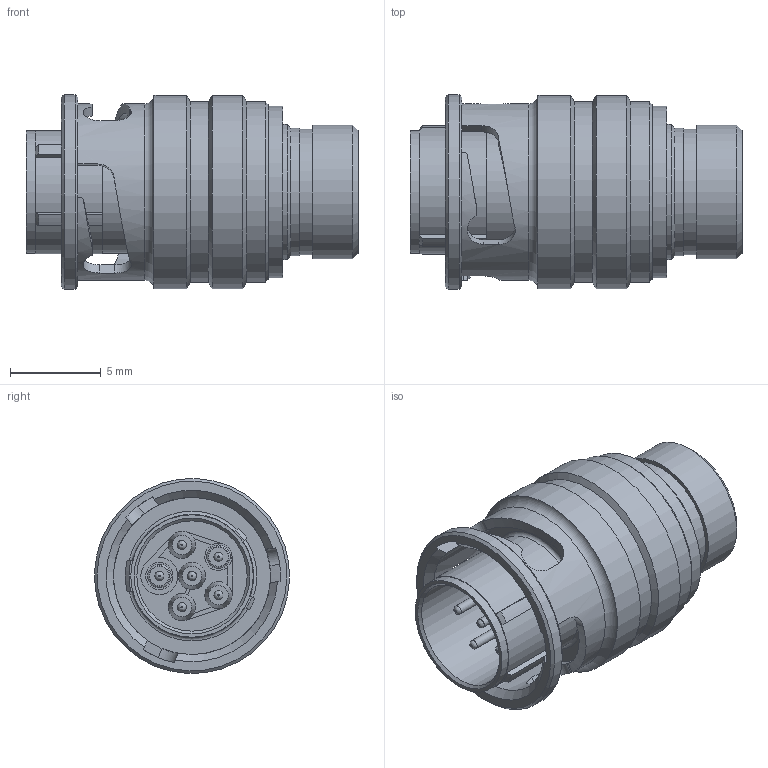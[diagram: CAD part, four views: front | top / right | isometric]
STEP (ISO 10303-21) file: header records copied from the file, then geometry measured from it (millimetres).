
FILE_DESCRIPTION(/* description */ ('STEP AP203'),/* implementation_level */ '2;1');
FILE_NAME(/* name */ 'ASX602-06PN-HE.step',/* time_stamp */ '',/* author */ (''),/* organization */ (''),/* preprocessor_version */ 'ST-DEVELOPER v20.1',/* originating_system */ 'Autodesk Translation Framework v15.8.0.0',/* authorisation */ '');
FILE_SCHEMA (('AUTOMOTIVE_DESIGN { 1 0 10303 214 3 1 1 }'));
Length unit declared in the file: millimetre
Products named in the file (1): CVM_YASX602-06PX-HE-R0
Bounding box: 18.29 x 10.74 x 10.74 mm (x, y, z)
Volume: 925.8 mm3; surface area: 1069.3 mm2
Topology: 1 solids, 1 shells, 192 faces, 460 edges, 290 vertices
Faces by surface type: plane 71, cylinder 64, cone 28, bspline 15, torus 8, sphere 6
Full cylindrical faces by diameter (mm): 0.35 x6, 0.5 x6, 1.3 x6, 1.5 x1, 6.075 x1, 6.3 x1, 6.45 x1, 6.75 x2, 6.9 x1, 7.05 x1, 7.35 x1, 7.44 x1, 8.65 x1, 9.448 x1, 9.75 x1, 9.95 x2, 10.65 x2, 10.75 x1
Entity records: 6360 total; most frequent: CARTESIAN_POINT 1763, DIRECTION 965, ORIENTED_EDGE 908, EDGE_CURVE 454, AXIS2_PLACEMENT_3D 393, VERTEX_POINT 290, EDGE_LOOP 224, CIRCLE 215
